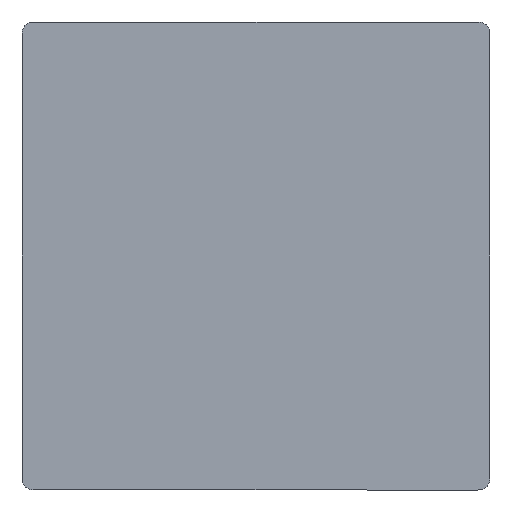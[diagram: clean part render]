
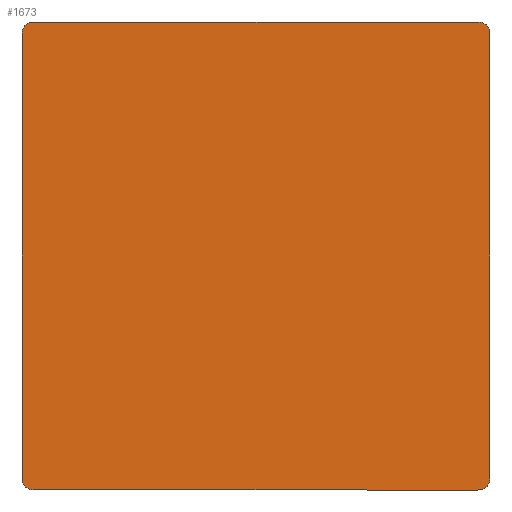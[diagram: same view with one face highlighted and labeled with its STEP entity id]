
A CAD part, front view. The second image highlights one B-rep face of the part: STEP entity #1673.
In plain terms, the highlighted planar face has unit normal (0, -1, 0).
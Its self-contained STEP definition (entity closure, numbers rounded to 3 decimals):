
#3 = CARTESIAN_POINT ( 'NONE',  ( 8.934, 0., 9.1 ) ) ;
#15 = LINE ( 'NONE', #893, #1334 ) ;
#51 = B_SPLINE_CURVE_WITH_KNOTS ( 'NONE', 3,
 ( #795, #1007, #1258, #1921 ),
 .UNSPECIFIED., .F., .F.,
 ( 4, 4 ),
 ( 0., 1. ),
 .UNSPECIFIED. ) ;
#79 = CARTESIAN_POINT ( 'NONE',  ( -9.1, 0., -8.602 ) ) ;
#138 = EDGE_CURVE ( 'NONE', #684, #1425, #1531, .T. ) ;
#187 = VERTEX_POINT ( 'NONE', #200 ) ;
#200 = CARTESIAN_POINT ( 'NONE',  ( 9.1, 0., 8.602 ) ) ;
#239 = CARTESIAN_POINT ( 'NONE',  ( -8.934, 0., -9.1 ) ) ;
#243 = CARTESIAN_POINT ( 'NONE',  ( 9.1, 0., -8.602 ) ) ;
#337 = DIRECTION ( 'NONE',  ( -1., 0., 0. ) ) ;
#366 = B_SPLINE_CURVE_WITH_KNOTS ( 'NONE', 3,
 ( #1328, #1344, #239, #852 ),
 .UNSPECIFIED., .F., .F.,
 ( 4, 4 ),
 ( 0., 1. ),
 .UNSPECIFIED. ) ;
#447 = DIRECTION ( 'NONE',  ( 0., 0., 1. ) ) ;
#485 = EDGE_CURVE ( 'NONE', #1322, #2336, #2270, .T. ) ;
#537 = CARTESIAN_POINT ( 'NONE',  ( 9.1, 0., -8.602 ) ) ;
#541 = CARTESIAN_POINT ( 'NONE',  ( 9.1, 0., 9.1 ) ) ;
#620 = VECTOR ( 'NONE', #2798, 1000. ) ;
#638 = CARTESIAN_POINT ( 'NONE',  ( 8.602, 0., 9.1 ) ) ;
#673 = EDGE_CURVE ( 'NONE', #1322, #1070, #366, .T. ) ;
#681 = CARTESIAN_POINT ( 'NONE',  ( 8.934, 0., -9.1 ) ) ;
#684 = VERTEX_POINT ( 'NONE', #1762 ) ;
#711 = CARTESIAN_POINT ( 'NONE',  ( 8.602, 0., -9.1 ) ) ;
#795 = CARTESIAN_POINT ( 'NONE',  ( -8.602, 0., 9.1 ) ) ;
#852 = CARTESIAN_POINT ( 'NONE',  ( -8.602, 0., -9.1 ) ) ;
#862 = ORIENTED_EDGE ( 'NONE', *, *, #1894, .F. ) ;
#893 = CARTESIAN_POINT ( 'NONE',  ( 9.1, 0., -9.1 ) ) ;
#976 = CARTESIAN_POINT ( 'NONE',  ( -8.602, 0., 9.1 ) ) ;
#1004 = LINE ( 'NONE', #541, #620 ) ;
#1007 = CARTESIAN_POINT ( 'NONE',  ( -8.934, 0., 9.1 ) ) ;
#1068 = FACE_OUTER_BOUND ( 'NONE', #2800, .T. ) ;
#1070 = VERTEX_POINT ( 'NONE', #2903 ) ;
#1143 = ORIENTED_EDGE ( 'NONE', *, *, #1823, .F. ) ;
#1175 = CARTESIAN_POINT ( 'NONE',  ( -9.1, 0., 8.602 ) ) ;
#1258 = CARTESIAN_POINT ( 'NONE',  ( -9.1, 0., 8.934 ) ) ;
#1282 = AXIS2_PLACEMENT_3D ( 'NONE', #2632, #2189, #2618 ) ;
#1314 = CARTESIAN_POINT ( 'NONE',  ( -9.1, 0., -9.1 ) ) ;
#1322 = VERTEX_POINT ( 'NONE', #79 ) ;
#1328 = CARTESIAN_POINT ( 'NONE',  ( -9.1, 0., -8.602 ) ) ;
#1334 = VECTOR ( 'NONE', #2235, 1000. ) ;
#1344 = CARTESIAN_POINT ( 'NONE',  ( -9.1, 0., -8.934 ) ) ;
#1369 = CARTESIAN_POINT ( 'NONE',  ( 8.602, 0., 9.1 ) ) ;
#1425 = VERTEX_POINT ( 'NONE', #537 ) ;
#1460 = CARTESIAN_POINT ( 'NONE',  ( 9.1, 0., -9.1 ) ) ;
#1531 = B_SPLINE_CURVE_WITH_KNOTS ( 'NONE', 3,
 ( #711, #681, #2921, #243 ),
 .UNSPECIFIED., .F., .F.,
 ( 4, 4 ),
 ( 0., 1. ),
 .UNSPECIFIED. ) ;
#1591 = ORIENTED_EDGE ( 'NONE', *, *, #2915, .T. ) ;
#1640 = B_SPLINE_CURVE_WITH_KNOTS ( 'NONE', 3,
 ( #2759, #2474, #3, #1369 ),
 .UNSPECIFIED., .F., .F.,
 ( 4, 4 ),
 ( 0., 1. ),
 .UNSPECIFIED. ) ;
#1673 = ADVANCED_FACE ( 'NONE', ( #1068 ), #2408, .T. ) ;
#1739 = VERTEX_POINT ( 'NONE', #638 ) ;
#1762 = CARTESIAN_POINT ( 'NONE',  ( 8.602, 0., -9.1 ) ) ;
#1823 = EDGE_CURVE ( 'NONE', #187, #1425, #15, .T. ) ;
#1843 = LINE ( 'NONE', #1460, #1955 ) ;
#1891 = VERTEX_POINT ( 'NONE', #976 ) ;
#1894 = EDGE_CURVE ( 'NONE', #1891, #1739, #1004, .T. ) ;
#1921 = CARTESIAN_POINT ( 'NONE',  ( -9.1, 0., 8.602 ) ) ;
#1955 = VECTOR ( 'NONE', #337, 1000. ) ;
#2075 = ORIENTED_EDGE ( 'NONE', *, *, #2415, .T. ) ;
#2104 = ORIENTED_EDGE ( 'NONE', *, *, #673, .T. ) ;
#2146 = ORIENTED_EDGE ( 'NONE', *, *, #2785, .F. ) ;
#2149 = VECTOR ( 'NONE', #447, 1000. ) ;
#2189 = DIRECTION ( 'NONE',  ( 0., -1., 0. ) ) ;
#2235 = DIRECTION ( 'NONE',  ( 0., 0., -1. ) ) ;
#2248 = ORIENTED_EDGE ( 'NONE', *, *, #485, .F. ) ;
#2270 = LINE ( 'NONE', #1314, #2149 ) ;
#2336 = VERTEX_POINT ( 'NONE', #1175 ) ;
#2408 = PLANE ( 'NONE',  #1282 ) ;
#2415 = EDGE_CURVE ( 'NONE', #1891, #2336, #51, .T. ) ;
#2474 = CARTESIAN_POINT ( 'NONE',  ( 9.1, 0., 8.934 ) ) ;
#2618 = DIRECTION ( 'NONE',  ( 0., 0., -1. ) ) ;
#2632 = CARTESIAN_POINT ( 'NONE',  ( 0., 0., 0. ) ) ;
#2759 = CARTESIAN_POINT ( 'NONE',  ( 9.1, 0., 8.602 ) ) ;
#2785 = EDGE_CURVE ( 'NONE', #684, #1070, #1843, .T. ) ;
#2798 = DIRECTION ( 'NONE',  ( 1., 0., 0. ) ) ;
#2800 = EDGE_LOOP ( 'NONE', ( #862, #2075, #2248, #2104, #2146, #2924, #1143, #1591 ) ) ;
#2903 = CARTESIAN_POINT ( 'NONE',  ( -8.602, 0., -9.1 ) ) ;
#2915 = EDGE_CURVE ( 'NONE', #187, #1739, #1640, .T. ) ;
#2921 = CARTESIAN_POINT ( 'NONE',  ( 9.1, 0., -8.934 ) ) ;
#2924 = ORIENTED_EDGE ( 'NONE', *, *, #138, .T. ) ;
